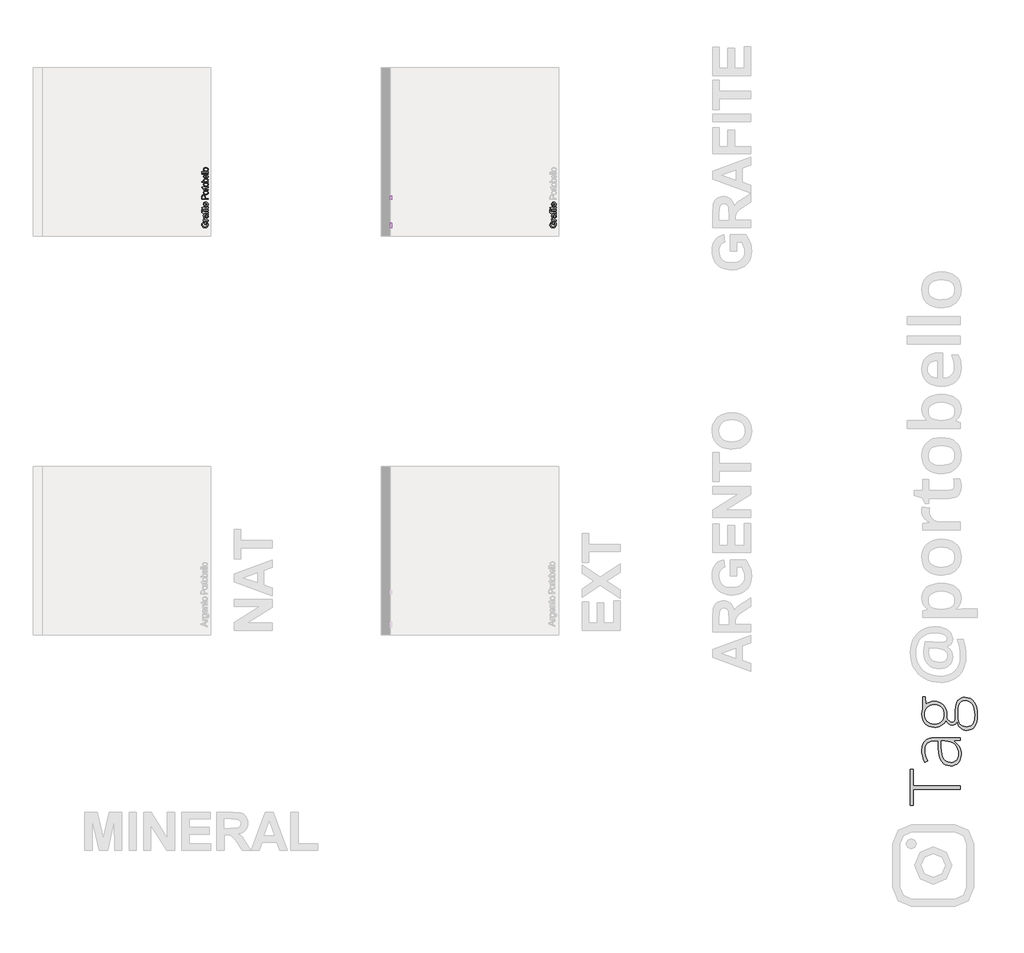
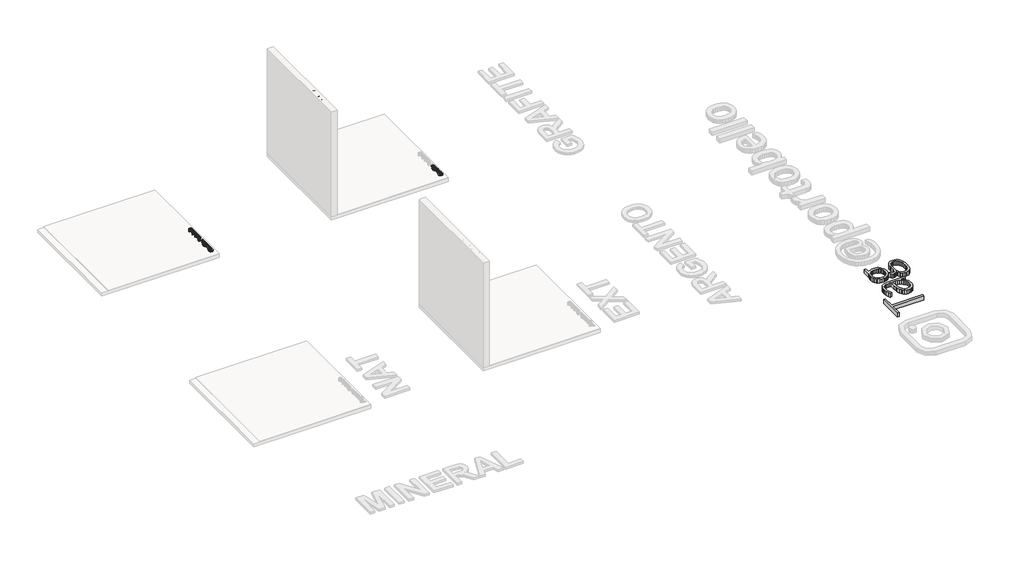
# One storey, part 5 of 14: 6 proxies.
"""IFC4 building model written with IfcOpenShell, lengths in millimetres."""

from ifc_helpers import new_model, si_unit, frame, origin, origin_with_axes, place, context, project, spatial, polyline, outline, extrude, element, save

model = new_model("IFC4")

# Units and contexts
model_context = context("Model", 3, world=origin())
ifc_project = project(units=[si_unit("LENGTHUNIT", "METRE", prefix="MILLI")], contexts=[model_context])

# Site, building, storey
site = spatial("IfcSite", under=ifc_project)
building = spatial("IfcBuilding", under=site)
storey = spatial("IfcBuildingStorey", under=building, Name="PORTOBELLO - SHOWROOM", Elevation=0.0)

# Proxies
placement = place(None, origin())
element("IfcBuildingElementProxy", 1, Name="10mm Arial", ObjectType="10mm Arial", at=placement, inside=storey, context=model_context, shape_type="SweptSolid", body=[
    extrude(outline(polyline([(197890.4860744, -2645.1463233), (197877.9290356, -2645.1463233), (197877.9290356, -2604.3359473), (197915.4775246, -2604.3359473), (197927.3233248, -2624.4836179), (197931.2964504, -2645.7839854), (197929.7176235, -2659.8708002), (197924.9811428, -2672.6025829), (197917.2525552, -2683.1791902), (197906.6974076, -2690.8004789), (197894.0361356, -2695.4082009), (197879.9891748, -2696.9441082), (197865.8410464, -2695.4143323), (197852.680068, -2690.8250044), (197841.6405425, -2683.3661969), (197833.8567726, -2673.2279823), (197829.2398536, -2660.87941), (197827.7008805, -2646.7895296), (197831.2693359, -2627.144631), (197841.2021498, -2613.3735817), (197857.8181532, -2605.7829498), (197861.0800402, -2617.3589699), (197849.4672319, -2623.0856663), (197842.7717796, -2632.8713274), (197840.2579193, -2646.9857333), (197842.9679833, -2663.0621765), (197850.0803686, -2674.0005345), (197859.7556651, -2680.4629948), (197879.47414, -2684.3870695), (197901.3631187, -2679.6659172), (197914.4597177, -2665.931656), (197918.7394116, -2646.7895296), (197915.5143128, -2629.6094404), (197908.6349195, -2616.8929861), (197890.4860744, -2616.8929861), (197890.4860744, -2645.1463233)])), frame((0.0, 0.0, 17.0), z_axis=(0.0, 0.0, 1.0), x_axis=(1.0, 0.0, 0.0)), (0.0, 0.0, 1.0), 20.0),
    extrude(outline(polyline([(197929.7268205, -2585.5003892), (197855.9542178, -2585.5003892), (197855.9542178, -2574.5129802), (197866.8680503, -2574.5129802), (197856.8126091, -2566.7138819), (197854.3845879, -2558.8657327), (197858.2596116, -2546.259643), (197869.5168007, -2550.4534978), (197866.9416267, -2559.2826656), (197869.4186988, -2566.3827881), (197876.2858294, -2570.9077367), (197890.9520582, -2572.9433504), (197929.7268205, -2572.9433504), (197929.7268205, -2585.5003892)])), frame((0.0, 0.0, 17.0), z_axis=(0.0, 0.0, 1.0), x_axis=(1.0, 0.0, 0.0)), (0.0, 0.0, 1.0), 20.0),
    extrude(outline(polyline([(197920.3090415, -2491.3225984), (197928.8193783, -2503.4994924), (197931.2964504, -2516.9517107), (197929.8065283, -2527.4455446), (197925.3367621, -2535.186395), (197918.5493392, -2539.9596638), (197910.1064475, -2541.5507535), (197900.1736336, -2539.1472578), (197892.9631465, -2532.8319502), (197888.8428681, -2524.0395705), (197886.9544072, -2513.1747889), (197882.6379252, -2491.3961748), (197879.842022, -2491.3225984), (197870.5713957, -2494.7806892), (197866.9416267, -2508.6621031), (197869.3573851, -2521.3662947), (197877.9290356, -2527.4240849), (197876.3594058, -2539.9811236), (197864.0966726, -2534.5487328), (197856.910711, -2523.6103748), (197854.3845879, -2507.0434223), (197856.6164054, -2491.8253705), (197862.2204744, -2483.2291945), (197870.743074, -2479.3786963), (197881.7304829, -2478.7655596), (197897.353205, -2478.7655596), (197919.1686073, -2478.1278975), (197929.7268205, -2475.6262999), (197929.7268205, -2488.1833387), (197920.3090415, -2491.3225984)]), holes=[polyline([(197895.1949639, -2491.3225984), (197899.0454621, -2511.5806336), (197901.0810758, -2522.3841015), (197904.3920138, -2527.2769321), (197909.2235307, -2528.9937147), (197916.0170848, -2525.2535811), (197918.7394116, -2514.2784349), (197915.735042, -2501.5742433), (197908.4632412, -2493.3827376), (197898.7511565, -2491.3961748), (197895.1949639, -2491.3225984)])]), frame((0.0, 0.0, 17.0), z_axis=(0.0, 0.0, 1.0), x_axis=(1.0, 0.0, 0.0)), (0.0, 0.0, 1.0), 20.0),
    extrude(outline(polyline([(197929.7268205, -2458.3603716), (197868.5112565, -2458.3603716), (197868.5112565, -2469.3477806), (197855.9542178, -2469.3477806), (197855.9542178, -2458.3603716), (197848.5230015, -2458.3603716), (197838.0506273, -2457.0359964), (197830.5703601, -2450.6103243), (197827.7008805, -2437.9551836), (197829.0743067, -2426.5017908), (197840.8465305, -2428.3412008), (197840.2579193, -2435.5762134), (197842.3425839, -2443.4856763), (197850.1171568, -2445.8033329), (197855.9542178, -2445.8033329), (197855.9542178, -2431.6766642), (197868.5112565, -2431.6766642), (197868.5112565, -2445.8033329), (197929.7268205, -2445.8033329), (197929.7268205, -2458.3603716)])), frame((0.0, 0.0, 17.0), z_axis=(0.0, 0.0, 1.0), x_axis=(1.0, 0.0, 0.0)), (0.0, 0.0, 1.0), 20.0),
    extrude(outline(polyline([(197841.8275492, -2420.6892553), (197829.2705104, -2420.6892553), (197829.2705104, -2408.1322166), (197841.8275492, -2408.1322166), (197841.8275492, -2420.6892553)])), frame((0.0, 0.0, 17.0), z_axis=(0.0, 0.0, 1.0), x_axis=(1.0, 0.0, 0.0)), (0.0, 0.0, 1.0), 20.0),
    extrude(outline(polyline([(197929.7268205, -2420.6892553), (197855.9542178, -2420.6892553), (197855.9542178, -2408.1322166), (197929.7268205, -2408.1322166), (197929.7268205, -2420.6892553)])), frame((0.0, 0.0, 17.0), z_axis=(0.0, 0.0, 1.0), x_axis=(1.0, 0.0, 0.0)), (0.0, 0.0, 1.0), 20.0),
    extrude(outline(polyline([(197919.2544464, -2362.612951), (197930.0947025, -2361.0433212), (197931.2964504, -2370.4365748), (197929.2117857, -2380.9579998), (197923.7426067, -2386.2064496), (197909.4933108, -2387.7270286), (197868.5112565, -2387.7270286), (197868.5112565, -2397.1448076), (197855.9542178, -2397.1448076), (197855.9542178, -2387.7270286), (197838.0261019, -2387.7270286), (197830.6439365, -2375.1699898), (197855.9542178, -2375.1699898), (197855.9542178, -2362.612951), (197868.5112565, -2362.612951), (197868.5112565, -2375.1699898), (197909.1254288, -2375.1699898), (197915.6001519, -2374.5078022), (197917.893283, -2372.3618239), (197918.7394116, -2368.08213), (197919.2544464, -2362.612951)])), frame((0.0, 0.0, 17.0), z_axis=(0.0, 0.0, 1.0), x_axis=(1.0, 0.0, 0.0)), (0.0, 0.0, 1.0), 20.0),
    extrude(outline(polyline([(197907.7520027, -2298.4052801), (197909.3216325, -2286.093496), (197918.5983902, -2290.5295397), (197925.5329658, -2297.6082025), (197929.8555792, -2307.1700687), (197931.2964504, -2319.0557228), (197928.8101812, -2333.7893967), (197921.3513738, -2345.1262935), (197909.404406, -2352.3551747), (197893.4536558, -2354.7648018), (197876.9664111, -2352.3306493), (197864.6362329, -2345.0281916), (197856.9474992, -2333.844579), (197854.3845879, -2319.7669613), (197856.9413678, -2306.1277363), (197864.6117074, -2295.2292322), (197876.9173601, -2288.0831245), (197893.3800794, -2285.7010886), (197896.7645938, -2285.774665), (197896.7645938, -2342.207763), (197906.1639787, -2340.0341936), (197913.0740289, -2334.9850132), (197917.3230659, -2327.697884), (197918.7394116, -2318.8104681), (197916.1151867, -2306.498684), (197907.7520027, -2298.4052801)]), holes=[polyline([(197884.207555, -2342.207763), (197884.207555, -2298.2581273), (197872.8277386, -2303.2858479), (197868.4131547, -2310.6066996), (197866.9416267, -2319.8160122), (197871.6382535, -2335.2793188), (197877.1288923, -2340.1445582), (197884.207555, -2342.207763)])]), frame((0.0, 0.0, 17.0), z_axis=(0.0, 0.0, 1.0), x_axis=(1.0, 0.0, 0.0)), (0.0, 0.0, 1.0), 20.0),
])
element("IfcBuildingElementProxy", 2, Name="10mm Arial", ObjectType="10mm Arial", at=placement, inside=storey, context=model_context, shape_type="SweptSolid", body=[
    extrude(outline(polyline([(192307.6502351, -2644.7991621), (192295.0931964, -2644.7991621), (192295.0931964, -2603.9887861), (192332.6416853, -2603.9887861), (192344.4874856, -2624.1364567), (192348.4606111, -2645.4368242), (192346.8817842, -2659.5236389), (192342.1453035, -2672.2554217), (192334.416716, -2682.832029), (192323.8615684, -2690.4533177), (192311.2002964, -2695.0610397), (192297.1533355, -2696.596947), (192283.0052071, -2695.067171), (192269.8442288, -2690.4778431), (192258.8047032, -2683.0190357), (192251.0209333, -2672.880821), (192246.4040143, -2660.5322487), (192244.8650413, -2646.4423683), (192248.4334966, -2626.7974698), (192258.3663105, -2613.0264204), (192274.982314, -2605.4357886), (192278.244201, -2617.0118087), (192266.6313927, -2622.7385051), (192259.9359404, -2632.5241662), (192257.4220801, -2646.6385721), (192260.1321441, -2662.7150152), (192267.2445293, -2673.6533732), (192276.9198258, -2680.1158336), (192296.6383007, -2684.0399082), (192318.5272795, -2679.318756), (192331.6238785, -2665.5844948), (192335.9035724, -2646.4423683), (192332.6784735, -2629.2622792), (192325.7990802, -2616.5458249), (192307.6502351, -2616.5458249), (192307.6502351, -2644.7991621)])), frame((0.0, 0.0, 17.0), z_axis=(0.0, 0.0, 1.0), x_axis=(1.0, 0.0, 0.0)), (0.0, 0.0, 1.0), 20.0),
    extrude(outline(polyline([(192346.8909813, -2585.1532279), (192273.1183785, -2585.1532279), (192273.1183785, -2574.165819), (192284.032211, -2574.165819), (192273.9767698, -2566.3667207), (192271.5487487, -2558.5185715), (192275.4237724, -2545.9124818), (192286.6809614, -2550.1063365), (192284.1057874, -2558.9355044), (192286.5828595, -2566.0356269), (192293.4499901, -2570.5605755), (192308.116219, -2572.5961892), (192346.8909813, -2572.5961892), (192346.8909813, -2585.1532279)])), frame((0.0, 0.0, 17.0), z_axis=(0.0, 0.0, 1.0), x_axis=(1.0, 0.0, 0.0)), (0.0, 0.0, 1.0), 20.0),
    extrude(outline(polyline([(192337.4732022, -2490.9754372), (192345.983539, -2503.1523312), (192348.4606111, -2516.6045495), (192346.9706891, -2527.0983834), (192342.5009228, -2534.8392337), (192335.7135, -2539.6125026), (192327.2706082, -2541.2035922), (192317.3377943, -2538.8000965), (192310.1273072, -2532.484789), (192306.0070289, -2523.6924093), (192304.118568, -2512.8276277), (192299.8020859, -2491.0490136), (192297.0061827, -2490.9754372), (192287.7355565, -2494.4335279), (192284.1057874, -2508.3149419), (192286.5215459, -2521.0191334), (192295.0931964, -2527.0769236), (192293.5235665, -2539.6339624), (192281.2608333, -2534.2015716), (192274.0748717, -2523.2632136), (192271.5487487, -2506.6962611), (192273.7805661, -2491.4782092), (192279.3846352, -2482.8820333), (192287.9072347, -2479.0315351), (192298.8946436, -2478.4183984), (192314.5173657, -2478.4183984), (192336.332768, -2477.7807363), (192346.8909813, -2475.2791387), (192346.8909813, -2487.8361775), (192337.4732022, -2490.9754372)]), holes=[polyline([(192312.3591247, -2490.9754372), (192316.2096229, -2511.2334724), (192318.2452366, -2522.0369403), (192321.5561746, -2526.9297708), (192326.3876914, -2528.6465535), (192333.1812456, -2524.9064199), (192335.9035724, -2513.9312737), (192332.8992027, -2501.2270821), (192325.627402, -2493.0355763), (192315.9153173, -2491.0490136), (192312.3591247, -2490.9754372)])]), frame((0.0, 0.0, 17.0), z_axis=(0.0, 0.0, 1.0), x_axis=(1.0, 0.0, 0.0)), (0.0, 0.0, 1.0), 20.0),
    extrude(outline(polyline([(192346.8909813, -2458.0132104), (192285.6754173, -2458.0132104), (192285.6754173, -2469.0006193), (192273.1183785, -2469.0006193), (192273.1183785, -2458.0132104), (192265.6871622, -2458.0132104), (192255.2147881, -2456.6888352), (192247.7345209, -2450.263163), (192244.8650413, -2437.6080224), (192246.2384674, -2426.1546296), (192258.0106912, -2427.9940396), (192257.4220801, -2435.2290522), (192259.5067447, -2443.1385151), (192267.2813175, -2445.4561716), (192273.1183785, -2445.4561716), (192273.1183785, -2431.329503), (192285.6754173, -2431.329503), (192285.6754173, -2445.4561716), (192346.8909813, -2445.4561716), (192346.8909813, -2458.0132104)])), frame((0.0, 0.0, 17.0), z_axis=(0.0, 0.0, 1.0), x_axis=(1.0, 0.0, 0.0)), (0.0, 0.0, 1.0), 20.0),
    extrude(outline(polyline([(192258.9917099, -2420.3420941), (192246.4346711, -2420.3420941), (192246.4346711, -2407.7850553), (192258.9917099, -2407.7850553), (192258.9917099, -2420.3420941)])), frame((0.0, 0.0, 17.0), z_axis=(0.0, 0.0, 1.0), x_axis=(1.0, 0.0, 0.0)), (0.0, 0.0, 1.0), 20.0),
    extrude(outline(polyline([(192346.8909813, -2420.3420941), (192273.1183785, -2420.3420941), (192273.1183785, -2407.7850553), (192346.8909813, -2407.7850553), (192346.8909813, -2420.3420941)])), frame((0.0, 0.0, 17.0), z_axis=(0.0, 0.0, 1.0), x_axis=(1.0, 0.0, 0.0)), (0.0, 0.0, 1.0), 20.0),
    extrude(outline(polyline([(192336.4186072, -2362.2657898), (192347.2588633, -2360.6961599), (192348.4606111, -2370.0894135), (192346.3759465, -2380.6108386), (192340.9067675, -2385.8592884), (192326.6574715, -2387.3798673), (192285.6754173, -2387.3798673), (192285.6754173, -2396.7976464), (192273.1183785, -2396.7976464), (192273.1183785, -2387.3798673), (192255.1902626, -2387.3798673), (192247.8080973, -2374.8228286), (192273.1183785, -2374.8228286), (192273.1183785, -2362.2657898), (192285.6754173, -2362.2657898), (192285.6754173, -2374.8228286), (192326.2895896, -2374.8228286), (192332.7643127, -2374.160641), (192335.0574438, -2372.0146627), (192335.9035724, -2367.7349688), (192336.4186072, -2362.2657898)])), frame((0.0, 0.0, 17.0), z_axis=(0.0, 0.0, 1.0), x_axis=(1.0, 0.0, 0.0)), (0.0, 0.0, 1.0), 20.0),
    extrude(outline(polyline([(192324.9161634, -2298.0581189), (192326.4857933, -2285.7463348), (192335.7625509, -2290.1823785), (192342.6971265, -2297.2610412), (192347.01974, -2306.8229074), (192348.4606111, -2318.7085616), (192345.974342, -2333.4422355), (192338.5155345, -2344.7791323), (192326.5685667, -2352.0080135), (192310.6178166, -2354.4176406), (192294.1305718, -2351.983488), (192281.8003936, -2344.6810304), (192274.1116599, -2333.4974178), (192271.5487487, -2319.4198001), (192274.1055285, -2305.7805751), (192281.7758681, -2294.882071), (192294.0815209, -2287.7359632), (192310.5442402, -2285.3539273), (192313.9287545, -2285.4275037), (192313.9287545, -2341.8606018), (192323.3281395, -2339.6870323), (192330.2381896, -2334.6378519), (192334.4872267, -2327.3507228), (192335.9035724, -2318.4633069), (192333.2793475, -2306.1515228), (192324.9161634, -2298.0581189)]), holes=[polyline([(192301.3717157, -2341.8606018), (192301.3717157, -2297.9109661), (192289.9918994, -2302.9386867), (192285.5773154, -2310.2595384), (192284.1057874, -2319.468851), (192288.8024142, -2334.9321575), (192294.293053, -2339.7973969), (192301.3717157, -2341.8606018)])]), frame((0.0, 0.0, 17.0), z_axis=(0.0, 0.0, 1.0), x_axis=(1.0, 0.0, 0.0)), (0.0, 0.0, 1.0), 20.0),
])
element("IfcBuildingElementProxy", 3, Name="10mm Arial", ObjectType="10mm Arial", at=placement, inside=storey, context=model_context, shape_type="SweptSolid", body=[
    extrude(outline(polyline([(-2650.8558235, 2597.4669111), (-2650.8558235, 2610.0239499), (-2610.0454475, 2610.0239499), (-2610.0454475, 2572.4754609), (-2630.1931181, 2560.6296606), (-2651.4934856, 2556.6565351), (-2665.5803003, 2558.235362), (-2678.312083, 2562.9718427), (-2688.8886904, 2570.7004303), (-2696.5099791, 2581.2555778), (-2701.1177011, 2593.9168498), (-2702.6536084, 2607.9638107), (-2701.1238324, 2622.1119391), (-2696.5345045, 2635.2729175), (-2689.0756971, 2646.312443), (-2678.9374824, 2654.0962129), (-2666.5889101, 2658.7131319), (-2652.4990297, 2660.2521049), (-2632.8541312, 2656.6836496), (-2619.0830818, 2646.7508357), (-2611.49245, 2630.1348323), (-2623.0684701, 2626.8729452), (-2628.7951665, 2638.4857536), (-2638.5808276, 2645.1812059), (-2652.6952335, 2647.6950662), (-2668.7716766, 2644.9850021), (-2679.7100346, 2637.8726169), (-2686.172495, 2628.1973204), (-2690.0965696, 2608.4788455), (-2685.3754174, 2586.5898668), (-2671.6411562, 2573.4932677), (-2652.4990297, 2569.2135739), (-2635.3189405, 2572.4386727), (-2622.6024862, 2579.318066), (-2622.6024862, 2597.4669111), (-2650.8558235, 2597.4669111)])), frame((195271.7113716, 0.0, 0.0), z_axis=(1.0, 0.0, 0.0), x_axis=(0.0, 1.0, 0.0)), (0.0, 0.0, 1.0), 20.0),
    extrude(outline(polyline([(-2591.2098893, 2558.2261649), (-2591.2098893, 2631.9987677), (-2580.2224804, 2631.9987677), (-2580.2224804, 2621.0849352), (-2572.4233821, 2631.1403764), (-2564.5752329, 2633.5683975), (-2551.9691432, 2629.6933739), (-2556.1629979, 2618.4361848), (-2564.9921658, 2621.0113588), (-2572.0922883, 2618.5342867), (-2576.6172368, 2611.6671561), (-2578.6528506, 2597.0009272), (-2578.6528506, 2558.2261649), (-2591.2098893, 2558.2261649)])), frame((195271.7113716, 0.0, 0.0), z_axis=(1.0, 0.0, 0.0), x_axis=(0.0, 1.0, 0.0)), (0.0, 0.0, 1.0), 20.0),
    extrude(outline(polyline([(-2497.0320986, 2567.643944), (-2509.2089926, 2559.1336072), (-2522.6612109, 2556.6565351), (-2533.1550448, 2558.1464572), (-2540.8958951, 2562.6162234), (-2545.669164, 2569.4036462), (-2547.2602536, 2577.846538), (-2544.8567579, 2587.7793519), (-2538.5414503, 2594.989839), (-2529.7490707, 2599.1101173), (-2518.8842891, 2600.9985782), (-2497.105675, 2605.3150603), (-2497.0320986, 2608.1109635), (-2500.4901893, 2617.3815898), (-2514.3716033, 2621.0113588), (-2527.0757948, 2618.5956003), (-2533.133585, 2610.0239499), (-2545.6906238, 2611.5935797), (-2540.258233, 2623.8563129), (-2529.319875, 2631.0422745), (-2512.7529225, 2633.5683975), (-2497.5348706, 2631.3365801), (-2488.9386947, 2625.7325111), (-2485.0881964, 2617.2099115), (-2484.4750598, 2606.2225026), (-2484.4750598, 2590.5997805), (-2483.8373977, 2568.7843782), (-2481.3358001, 2558.2261649), (-2493.8928389, 2558.2261649), (-2497.0320986, 2567.643944)]), holes=[polyline([(-2497.0320986, 2592.7580215), (-2517.2901338, 2588.9075233), (-2528.0936017, 2586.8719096), (-2532.9864322, 2583.5609717), (-2534.7032149, 2578.7294548), (-2530.9630812, 2571.9359006), (-2519.9879351, 2569.2135739), (-2507.2837435, 2572.2179435), (-2499.0922377, 2579.4897443), (-2497.105675, 2589.2018289), (-2497.0320986, 2592.7580215)])]), frame((195271.7113716, 0.0, 0.0), z_axis=(1.0, 0.0, 0.0), x_axis=(0.0, 1.0, 0.0)), (0.0, 0.0, 1.0), 20.0),
    extrude(outline(polyline([(-2464.0698718, 2558.2261649), (-2464.0698718, 2619.4417289), (-2475.0572807, 2619.4417289), (-2475.0572807, 2631.9987677), (-2464.0698718, 2631.9987677), (-2464.0698718, 2639.429984), (-2462.7454966, 2649.9023581), (-2456.3198244, 2657.3826254), (-2443.6646838, 2660.2521049), (-2432.211291, 2658.8786788), (-2434.050701, 2647.106455), (-2441.2857136, 2647.6950662), (-2449.1951765, 2645.6104015), (-2451.512833, 2637.8358287), (-2451.512833, 2631.9987677), (-2437.3861644, 2631.9987677), (-2437.3861644, 2619.4417289), (-2451.512833, 2619.4417289), (-2451.512833, 2558.2261649), (-2464.0698718, 2558.2261649)])), frame((195271.7113716, 0.0, 0.0), z_axis=(1.0, 0.0, 0.0), x_axis=(0.0, 1.0, 0.0)), (0.0, 0.0, 1.0), 20.0),
    extrude(outline(polyline([(195291.7113716, -2413.8417167), (195291.7113716, -2426.3987555), (195271.7113716, -2426.3987555), (195271.7113716, -2413.8417167), (195291.7113716, -2413.8417167)])), frame((0.0, 0.0, 2646.1254363), z_axis=(0.0, 0.0, 1.0), x_axis=(1.0, 0.0, 0.0)), (0.0, 0.0, 1.0), 12.5570388),
    extrude(outline(polyline([(195291.7113716, -2413.8417167), (195291.7113716, -2426.3987555), (195271.7113716, -2426.3987555), (195271.7113716, -2413.8417167), (195291.7113716, -2413.8417167)])), frame((0.0, 0.0, 2558.2261649), z_axis=(0.0, 0.0, 1.0), x_axis=(1.0, 0.0, 0.0)), (0.0, 0.0, 1.0), 73.7726028),
    extrude(outline(polyline([(-2368.3224512, 2568.6985391), (-2366.7528213, 2557.8582829), (-2376.1460749, 2556.6565351), (-2386.6675, 2558.7411997), (-2391.9159498, 2564.2103787), (-2393.4365287, 2578.4596747), (-2393.4365287, 2619.4417289), (-2402.8543078, 2619.4417289), (-2402.8543078, 2631.9987677), (-2393.4365287, 2631.9987677), (-2393.4365287, 2649.9268836), (-2380.8794899, 2657.309049), (-2380.8794899, 2631.9987677), (-2368.3224512, 2631.9987677), (-2368.3224512, 2619.4417289), (-2380.8794899, 2619.4417289), (-2380.8794899, 2578.8275567), (-2380.2173024, 2572.3528336), (-2378.0713241, 2570.0597024), (-2373.7916302, 2569.2135739), (-2368.3224512, 2568.6985391)])), frame((195271.7113716, 0.0, 0.0), z_axis=(1.0, 0.0, 0.0), x_axis=(0.0, 1.0, 0.0)), (0.0, 0.0, 1.0), 20.0),
    extrude(outline(polyline([(-2304.1147803, 2580.2009828), (-2291.8029962, 2578.6313529), (-2296.2390399, 2569.3545953), (-2303.3177026, 2562.4200197), (-2312.8795688, 2558.0974062), (-2324.765223, 2556.6565351), (-2339.4988969, 2559.1428042), (-2350.8357937, 2566.6016117), (-2358.0646749, 2578.5485795), (-2360.4743019, 2594.4993297), (-2358.0401494, 2610.9865744), (-2350.7376918, 2623.3167526), (-2339.5540792, 2631.0054863), (-2325.4764615, 2633.5683975), (-2311.8372365, 2631.0116177), (-2300.9387324, 2623.3412781), (-2293.7926246, 2611.0356253), (-2291.4105887, 2594.5729061), (-2291.4841651, 2591.1883917), (-2347.9172632, 2591.1883917), (-2345.7436937, 2581.7890067), (-2340.6945133, 2574.8789566), (-2333.4073842, 2570.6299195), (-2324.5199683, 2569.2135739), (-2312.2081842, 2571.8377988), (-2304.1147803, 2580.2009828)]), holes=[polyline([(-2347.9172632, 2603.7454305), (-2303.9676275, 2603.7454305), (-2308.9953481, 2615.1252469), (-2316.3161998, 2619.5398308), (-2325.5255124, 2621.0113588), (-2340.9888189, 2616.314732), (-2345.8540583, 2610.8240932), (-2347.9172632, 2603.7454305)])]), frame((195271.7113716, 0.0, 0.0), z_axis=(1.0, 0.0, 0.0), x_axis=(0.0, 1.0, 0.0)), (0.0, 0.0, 1.0), 20.0),
])
element("IfcBuildingElementProxy", 4, Name="10mm Arial Narrow", ObjectType="10mm Arial Narrow", at=placement, inside=storey, context=model_context, shape_type="SweptSolid", body=[
    extrude(outline(polyline([(192346.8909813, -2234.5741578), (192246.1723775, -2234.5741578), (192246.1723775, -2203.2772732), (192248.0506983, -2186.9815716), (192257.5311414, -2175.5085855), (192274.5502503, -2171.2189071), (192286.6260758, -2173.0052155), (192296.2524696, -2178.3641407), (192302.553728, -2188.1079295), (192304.6541475, -2203.0488287), (192304.6541475, -2224.8271962), (192346.8909813, -2224.8271962), (192346.8909813, -2234.5741578)]), holes=[polyline([(192293.2826922, -2224.8271962), (192293.2826922, -2201.8558412), (192288.751878, -2185.9916458), (192275.0832872, -2180.9658687), (192264.9175108, -2183.4406832), (192259.117561, -2189.4183121), (192257.5438328, -2202.0842857), (192257.5438328, -2224.8271962), (192293.2826922, -2224.8271962)])]), frame((0.0, 0.0, 17.0), z_axis=(0.0, 0.0, 1.0), x_axis=(1.0, 0.0, 0.0)), (0.0, 0.0, 1.0), 20.0),
    extrude(outline(polyline([(192310.3398751, -2163.096439), (192293.7490995, -2161.1419702), (192281.7970147, -2155.2785636), (192274.5724601, -2146.4199968), (192272.1642753, -2135.4800477), (192274.5724601, -2124.6670121), (192281.7970147, -2115.7830627), (192293.5587292, -2109.8435079), (192309.5783937, -2107.8636563), (192326.7402803, -2109.8086067), (192338.8827354, -2115.6434578), (192346.10729, -2124.492506), (192348.5154749, -2135.4800477), (192346.1009444, -2146.3406759), (192338.8573527, -2155.2151068), (192326.8989222, -2161.126106), (192310.3398751, -2163.096439)]), holes=[polyline([(192310.3144924, -2153.3494774), (192322.8662438, -2152.0454405), (192331.7375018, -2148.1333299), (192337.0107604, -2142.2921332), (192338.7685132, -2135.2008379), (192336.9948962, -2128.4807647), (192331.6740451, -2122.7886914), (192322.7869228, -2118.9051363), (192310.3144924, -2117.610618), (192297.800815, -2118.9146549), (192288.9422483, -2122.8267654), (192283.6689898, -2128.6679622), (192281.9112369, -2135.7592575), (192283.6785083, -2142.5269233), (192288.9803224, -2148.2094781), (192297.8484076, -2152.0644776), (192310.3144924, -2153.3494774)])]), frame((0.0, 0.0, 17.0), z_axis=(0.0, 0.0, 1.0), x_axis=(1.0, 0.0, 0.0)), (0.0, 0.0, 1.0), 20.0),
    extrude(outline(polyline([(192338.7685132, -2036.3859375), (192348.5154749, -2034.7614439), (192348.5154749, -2042.1224306), (192346.3960184, -2050.3971949), (192340.5960686, -2054.7122561), (192325.9502434, -2055.8798609), (192283.5357305, -2055.8798609), (192283.5357305, -2064.0023289), (192280.2867433, -2064.0023289), (192285.1602241, -2065.6268225), (192283.5357305, -2073.1908709), (192285.8582487, -2079.2700306), (192292.3435318, -2083.1408942), (192307.7508384, -2085.1207458), (192346.8909813, -2085.1207458), (192346.8909813, -2094.8677075), (192273.7887689, -2094.8677075), (192273.7887689, -2085.1207458), (192283.4849651, -2085.1207458), (192274.397954, -2078.8765985), (192272.1642753, -2072.4801549), (192273.7887689, -2064.0023289), (192273.7887689, -2055.8798609), (192257.5438328, -2055.8798609), (192249.4213647, -2046.1328992), (192273.7887689, -2046.1328992), (192273.7887689, -2036.3859375), (192283.5357305, -2036.3859375), (192283.5357305, -2046.1328992), (192328.1839221, -2046.1328992), (192336.1794766, -2045.269887), (192338.7685132, -2040.6502333), (192338.7685132, -2036.3859375)])), frame((0.0, 0.0, 17.0), z_axis=(0.0, 0.0, 1.0), x_axis=(1.0, 0.0, 0.0)), (0.0, 0.0, 1.0), 20.0),
    extrude(outline(polyline([(192310.3398751, -2029.8879631), (192293.7490995, -2027.9334942), (192281.7970147, -2022.0700876), (192274.5724601, -2013.2115209), (192272.1642753, -2002.2715718), (192274.5724601, -1991.4585362), (192281.7970147, -1982.5745868), (192293.5587292, -1976.635032), (192309.5783937, -1974.6551804), (192326.7402803, -1976.6001308), (192338.8827354, -1982.4349818), (192346.10729, -1991.28403), (192348.5154749, -2002.2715718), (192346.1009444, -2013.1321999), (192338.8573527, -2022.0066308), (192326.8989222, -2027.91763), (192310.3398751, -2029.8879631)]), holes=[polyline([(192310.3144924, -2020.1410015), (192322.8662438, -2018.8369646), (192331.7375018, -2014.924854), (192337.0107604, -2009.0836573), (192338.7685132, -2001.9923619), (192336.9948962, -1995.2722888), (192331.6740451, -1989.5802154), (192322.7869228, -1985.6966604), (192310.3144924, -1984.4021421), (192297.800815, -1985.7061789), (192288.9422483, -1989.6182895), (192283.6689898, -1995.4594863), (192281.9112369, -2002.5507816), (192283.6785083, -2009.3184474), (192288.9803224, -2015.0010022), (192297.8484076, -2018.8560016), (192310.3144924, -2020.1410015)])]), frame((0.0, 0.0, 17.0), z_axis=(0.0, 0.0, 1.0), x_axis=(1.0, 0.0, 0.0)), (0.0, 0.0, 1.0), 20.0),
    extrude(outline(polyline([(192346.8909813, -1951.9122699), (192346.8909813, -1961.6592315), (192246.1723775, -1961.6592315), (192246.1723775, -1951.9122699), (192281.5812617, -1951.9122699), (192274.4994848, -1944.5132092), (192272.1642753, -1935.3119758), (192276.3651142, -1922.4302492), (192289.0945446, -1913.1528677), (192309.7814554, -1909.6754361), (192326.2357989, -1911.6076951), (192338.438538, -1917.4044721), (192345.9962407, -1925.7775944), (192348.5154749, -1935.4388894), (192345.9010555, -1944.7797276), (192338.1339454, -1951.9122699), (192346.8909813, -1951.9122699)]), holes=[polyline([(192309.7814554, -1951.9122699), (192327.0290086, -1949.8308874), (192335.7606618, -1943.9420981), (192338.7685132, -1935.4896548), (192336.979032, -1929.5469272), (192331.6105883, -1924.3085699), (192310.1875788, -1919.4223977), (192288.751878, -1924.1308909), (192283.6213972, -1929.3755939), (192281.9112369, -1935.6927165), (192283.7007182, -1941.6703453), (192289.0691619, -1946.9626409), (192309.7814554, -1951.9122699)])]), frame((0.0, 0.0, 17.0), z_axis=(0.0, 0.0, 1.0), x_axis=(1.0, 0.0, 0.0)), (0.0, 0.0, 1.0), 20.0),
    extrude(outline(polyline([(192324.1480708, -1857.6916406), (192325.7725644, -1847.9446789), (192335.6591309, -1851.6442093), (192342.7789818, -1857.4631962), (192347.0813516, -1865.1668494), (192348.5154749, -1874.520379), (192346.1009444, -1886.113933), (192338.8573527, -1895.2580553), (192327.0512185, -1901.19761), (192310.9490602, -1903.1774616), (192294.2821365, -1901.1880915), (192282.1016073, -1895.2199812), (192274.6486083, -1886.2059454), (192272.1642753, -1875.0787987), (192274.5629416, -1864.3958495), (192281.7589407, -1855.6483322), (192293.4984452, -1849.8134811), (192309.5276283, -1847.8685308), (192312.7766155, -1847.9446789), (192312.7766155, -1893.4305), (192332.2197734, -1887.4274884), (192337.1313283, -1881.4974522), (192338.7685132, -1874.3934655), (192335.1134026, -1864.2149977), (192324.1480708, -1857.6916406)]), holes=[polyline([(192303.0296538, -1892.7705494), (192303.0296538, -1857.6916406), (192288.7645693, -1861.9559363), (192283.62457, -1867.7812688), (192281.9112369, -1875.0026506), (192287.6223473, -1887.2117354), (192303.0296538, -1892.7705494)])]), frame((0.0, 0.0, 17.0), z_axis=(0.0, 0.0, 1.0), x_axis=(1.0, 0.0, 0.0)), (0.0, 0.0, 1.0), 20.0),
    extrude(outline(polyline([(192346.8909813, -1834.94873), (192246.1723775, -1834.94873), (192246.1723775, -1825.2017684), (192346.8909813, -1825.2017684), (192346.8909813, -1834.94873)])), frame((0.0, 0.0, 17.0), z_axis=(0.0, 0.0, 1.0), x_axis=(1.0, 0.0, 0.0)), (0.0, 0.0, 1.0), 20.0),
    extrude(outline(polyline([(192346.8909813, -1808.9568323), (192246.1723775, -1808.9568323), (192246.1723775, -1799.2098706), (192346.8909813, -1799.2098706), (192346.8909813, -1808.9568323)])), frame((0.0, 0.0, 17.0), z_axis=(0.0, 0.0, 1.0), x_axis=(1.0, 0.0, 0.0)), (0.0, 0.0, 1.0), 20.0),
    extrude(outline(polyline([(192310.3398751, -1787.8384154), (192293.7490995, -1785.8839465), (192281.7970147, -1780.0205399), (192274.5724601, -1771.1619732), (192272.1642753, -1760.222024), (192274.5724601, -1749.4089884), (192281.7970147, -1740.525039), (192293.5587292, -1734.5854843), (192309.5783937, -1732.6056327), (192326.7402803, -1734.550583), (192338.8827354, -1740.3854341), (192346.10729, -1749.2344823), (192348.5154749, -1760.222024), (192346.1009444, -1771.0826522), (192338.8573527, -1779.9570831), (192326.8989222, -1785.8680823), (192310.3398751, -1787.8384154)]), holes=[polyline([(192310.3144924, -1778.0914537), (192322.8662438, -1776.7874169), (192331.7375018, -1772.8753063), (192337.0107604, -1767.0341095), (192338.7685132, -1759.9428142), (192336.9948962, -1753.222741), (192331.6740451, -1747.5306677), (192322.7869228, -1743.6471127), (192310.3144924, -1742.3525943), (192297.800815, -1743.6566312), (192288.9422483, -1747.5687418), (192283.6689898, -1753.4099385), (192281.9112369, -1760.5012339), (192283.6785083, -1767.2688996), (192288.9803224, -1772.9514544), (192297.8484076, -1776.8064539), (192310.3144924, -1778.0914537)])]), frame((0.0, 0.0, 17.0), z_axis=(0.0, 0.0, 1.0), x_axis=(1.0, 0.0, 0.0)), (0.0, 0.0, 1.0), 20.0),
])
element("IfcBuildingElementProxy", 5, Name="10mm Arial Narrow", ObjectType="10mm Arial Narrow", at=placement, inside=storey, context=model_context, shape_type="SweptSolid", body=[
    extrude(outline(polyline([(-2245.8096597, 2558.2261649), (-2245.8096597, 2658.9447687), (-2214.5127751, 2658.9447687), (-2198.2170735, 2657.066448), (-2186.7440874, 2647.5860048), (-2182.454409, 2630.566896), (-2184.2407174, 2618.4910704), (-2189.5996426, 2608.8646767), (-2199.3434314, 2602.5634182), (-2214.2843306, 2600.4629988), (-2236.0626981, 2600.4629988), (-2236.0626981, 2558.2261649), (-2245.8096597, 2558.2261649)]), holes=[polyline([(-2236.0626981, 2611.834454), (-2213.0913431, 2611.834454), (-2197.2271477, 2616.3652682), (-2192.2013706, 2630.033859), (-2194.6761851, 2640.1996354), (-2200.653814, 2645.9995852), (-2213.3197876, 2647.5733134), (-2236.0626981, 2647.5733134), (-2236.0626981, 2611.834454)])]), frame((195271.7113716, 0.0, 0.0), z_axis=(1.0, 0.0, 0.0), x_axis=(0.0, 1.0, 0.0)), (0.0, 0.0, 1.0), 20.0),
    extrude(outline(polyline([(-2174.3319409, 2594.7772711), (-2172.3774721, 2611.3680467), (-2166.5140655, 2623.3201315), (-2157.6554987, 2630.5446861), (-2146.7155496, 2632.9528709), (-2135.902514, 2630.5446861), (-2127.0185646, 2623.3201315), (-2121.0790098, 2611.558417), (-2119.0991582, 2595.5387525), (-2121.0441086, 2578.3768659), (-2126.8789597, 2566.2344108), (-2135.7280079, 2559.0098562), (-2146.7155496, 2556.6016713), (-2157.5761778, 2559.0162019), (-2166.4506087, 2566.2597935), (-2172.3616079, 2578.218224), (-2174.3319409, 2594.7772711)]), holes=[polyline([(-2164.5849793, 2594.8026538), (-2163.2809424, 2582.2509024), (-2159.3688318, 2573.3796444), (-2153.5276351, 2568.1063858), (-2146.4363398, 2566.348633), (-2139.7162666, 2568.12225), (-2134.0241933, 2573.4431012), (-2130.1406382, 2582.3302234), (-2128.8461199, 2594.8026538), (-2130.1501568, 2607.3163312), (-2134.0622673, 2616.1748979), (-2139.9034641, 2621.4481564), (-2146.9947594, 2623.2059093), (-2153.7624252, 2621.4386379), (-2159.44498, 2616.1368238), (-2163.2999795, 2607.2687386), (-2164.5849793, 2594.8026538)])]), frame((195271.7113716, 0.0, 0.0), z_axis=(1.0, 0.0, 0.0), x_axis=(0.0, 1.0, 0.0)), (0.0, 0.0, 1.0), 20.0),
    extrude(outline(polyline([(-2047.6214394, 2566.348633), (-2045.9969458, 2556.6016713), (-2053.3579325, 2556.6016713), (-2061.6326968, 2558.7211278), (-2065.947758, 2564.5210777), (-2067.1153628, 2579.1669029), (-2067.1153628, 2621.5814157), (-2075.2378308, 2621.5814157), (-2075.2378308, 2624.8304029), (-2076.8623244, 2619.9569221), (-2084.4263728, 2621.5814157), (-2090.5055325, 2619.2588975), (-2094.3763961, 2612.7736144), (-2096.3562477, 2597.3663078), (-2096.3562477, 2558.2261649), (-2106.1032094, 2558.2261649), (-2106.1032094, 2631.3283773), (-2096.3562477, 2631.3283773), (-2096.3562477, 2621.6321811), (-2090.1121004, 2630.7191922), (-2083.7156568, 2632.9528709), (-2075.2378308, 2631.3283773), (-2067.1153628, 2631.3283773), (-2067.1153628, 2647.5733134), (-2057.3684011, 2655.6957815), (-2057.3684011, 2631.3283773), (-2047.6214394, 2631.3283773), (-2047.6214394, 2621.5814157), (-2057.3684011, 2621.5814157), (-2057.3684011, 2576.9332242), (-2056.5053889, 2568.9376697), (-2051.8857352, 2566.348633), (-2047.6214394, 2566.348633)])), frame((195271.7113716, 0.0, 0.0), z_axis=(1.0, 0.0, 0.0), x_axis=(0.0, 1.0, 0.0)), (0.0, 0.0, 1.0), 20.0),
    extrude(outline(polyline([(-2041.123465, 2594.7772711), (-2039.1689961, 2611.3680467), (-2033.3055895, 2623.3201315), (-2024.4470228, 2630.5446861), (-2013.5070737, 2632.9528709), (-2002.6940381, 2630.5446861), (-1993.8100887, 2623.3201315), (-1987.8705339, 2611.558417), (-1985.8906823, 2595.5387525), (-1987.8356327, 2578.3768659), (-1993.6704837, 2566.2344108), (-2002.5195319, 2559.0098562), (-2013.5070737, 2556.6016713), (-2024.3677018, 2559.0162019), (-2033.2421327, 2566.2597935), (-2039.1531319, 2578.218224), (-2041.123465, 2594.7772711)]), holes=[polyline([(-2031.3765034, 2594.8026538), (-2030.0724665, 2582.2509024), (-2026.1603559, 2573.3796444), (-2020.3191592, 2568.1063858), (-2013.2278638, 2566.348633), (-2006.5077907, 2568.12225), (-2000.8157173, 2573.4431012), (-1996.9321623, 2582.3302234), (-1995.637644, 2594.8026538), (-1996.9416808, 2607.3163312), (-2000.8537914, 2616.1748979), (-2006.6949882, 2621.4481564), (-2013.7862835, 2623.2059093), (-2020.5539493, 2621.4386379), (-2026.2365041, 2616.1368238), (-2030.0915035, 2607.2687386), (-2031.3765034, 2594.8026538)])]), frame((195271.7113716, 0.0, 0.0), z_axis=(1.0, 0.0, 0.0), x_axis=(0.0, 1.0, 0.0)), (0.0, 0.0, 1.0), 20.0),
    extrude(outline(polyline([(-1963.1477718, 2558.2261649), (-1972.8947334, 2558.2261649), (-1972.8947334, 2658.9447687), (-1963.1477718, 2658.9447687), (-1963.1477718, 2623.5358846), (-1955.7487111, 2630.6176614), (-1946.5474777, 2632.9528709), (-1933.6657511, 2628.752032), (-1924.3883696, 2616.0226016), (-1920.910938, 2595.3356908), (-1922.843197, 2578.8813473), (-1928.639974, 2566.6786082), (-1937.0130963, 2559.1209056), (-1946.6743913, 2556.6016713), (-1956.0152295, 2559.2160907), (-1963.1477718, 2566.9832008), (-1963.1477718, 2558.2261649)]), holes=[polyline([(-1963.1477718, 2595.3356908), (-1961.0663893, 2578.0881376), (-1955.1776, 2569.3564844), (-1946.7251567, 2566.348633), (-1940.7824291, 2568.1381142), (-1935.5440718, 2573.5065579), (-1930.6578996, 2594.9295674), (-1935.3663928, 2616.3652682), (-1940.6110958, 2621.495749), (-1946.9282184, 2623.2059093), (-1952.9058472, 2621.4164281), (-1958.1981428, 2616.0479843), (-1963.1477718, 2595.3356908)])]), frame((195271.7113716, 0.0, 0.0), z_axis=(1.0, 0.0, 0.0), x_axis=(0.0, 1.0, 0.0)), (0.0, 0.0, 1.0), 20.0),
    extrude(outline(polyline([(-1868.9271425, 2580.9690755), (-1859.1801808, 2579.3445819), (-1862.8797112, 2569.4580153), (-1868.6986981, 2562.3381644), (-1876.4023513, 2558.0357946), (-1885.7558809, 2556.6016713), (-1897.3494349, 2559.0162019), (-1906.4935572, 2566.2597935), (-1912.4331119, 2578.0659277), (-1914.4129635, 2594.168086), (-1912.4235934, 2610.8350097), (-1906.4554831, 2623.0155389), (-1897.4414473, 2630.4685379), (-1886.3143006, 2632.9528709), (-1875.6313514, 2630.5542046), (-1866.8838341, 2623.3582056), (-1861.048983, 2611.618701), (-1859.1040327, 2595.5895179), (-1859.1801808, 2592.3405307), (-1904.6660019, 2592.3405307), (-1898.6629903, 2572.8973728), (-1892.7329541, 2567.9858179), (-1885.6289674, 2566.348633), (-1875.4504996, 2570.0037436), (-1868.9271425, 2580.9690755)]), holes=[polyline([(-1904.0060513, 2602.0874924), (-1868.9271425, 2602.0874924), (-1873.1914382, 2616.3525769), (-1879.0167707, 2621.4925762), (-1886.2381525, 2623.2059093), (-1898.4472373, 2617.4947989), (-1904.0060513, 2602.0874924)])]), frame((195271.7113716, 0.0, 0.0), z_axis=(1.0, 0.0, 0.0), x_axis=(0.0, 1.0, 0.0)), (0.0, 0.0, 1.0), 20.0),
    extrude(outline(polyline([(195291.7113716, -1836.4372703), (195291.7113716, -1846.1842319), (195271.7113716, -1846.1842319), (195271.7113716, -1836.4372703), (195291.7113716, -1836.4372703)])), frame((0.0, 0.0, 2558.2261649), z_axis=(0.0, 0.0, 1.0), x_axis=(1.0, 0.0, 0.0)), (0.0, 0.0, 1.0), 100.7186038),
    extrude(outline(polyline([(195291.7113716, -1810.4453725), (195291.7113716, -1820.1923342), (195271.7113716, -1820.1923342), (195271.7113716, -1810.4453725), (195291.7113716, -1810.4453725)])), frame((0.0, 0.0, 2558.2261649), z_axis=(0.0, 0.0, 1.0), x_axis=(1.0, 0.0, 0.0)), (0.0, 0.0, 1.0), 100.7186038),
    extrude(outline(polyline([(-1799.0739173, 2594.7772711), (-1797.1194484, 2611.3680467), (-1791.2560418, 2623.3201315), (-1782.3974751, 2630.5446861), (-1771.4575259, 2632.9528709), (-1760.6444903, 2630.5446861), (-1751.7605409, 2623.3201315), (-1745.8209862, 2611.558417), (-1743.8411346, 2595.5387525), (-1745.7860849, 2578.3768659), (-1751.620936, 2566.2344108), (-1760.4699842, 2559.0098562), (-1771.4575259, 2556.6016713), (-1782.3181541, 2559.0162019), (-1791.192585, 2566.2597935), (-1797.1035842, 2578.218224), (-1799.0739173, 2594.7772711)]), holes=[polyline([(-1789.3269556, 2594.8026538), (-1788.0229188, 2582.2509024), (-1784.1108082, 2573.3796444), (-1778.2696114, 2568.1063858), (-1771.1783161, 2566.348633), (-1764.4582429, 2568.12225), (-1758.7661696, 2573.4431012), (-1754.8826146, 2582.3302234), (-1753.5880962, 2594.8026538), (-1754.8921331, 2607.3163312), (-1758.8042437, 2616.1748979), (-1764.6454404, 2621.4481564), (-1771.7367358, 2623.2059093), (-1778.5044015, 2621.4386379), (-1784.1869563, 2616.1368238), (-1788.0419558, 2607.2687386), (-1789.3269556, 2594.8026538)])]), frame((195271.7113716, 0.0, 0.0), z_axis=(1.0, 0.0, 0.0), x_axis=(0.0, 1.0, 0.0)), (0.0, 0.0, 1.0), 20.0),
])
element("IfcBuildingElementProxy", 6, Name="80mm OpenSans Light", ObjectType="80mm OpenSans Light", at=placement, inside=storey, context=model_context, shape_type="SweptSolid", body=[
    extrude(outline(polyline([(204409.1365161, -11647.6126556), (204409.1365161, -11704.0988023), (203655.3469155, -11704.0988023), (203655.3469155, -11962.7332444), (203609.1965317, -11962.7332444), (203609.1965317, -11389.2185801), (203655.3469155, -11389.2185801), (203655.3469155, -11647.6126556), (204409.1365161, -11647.6126556)])), origin_with_axes(), (0.0, 0.0, 1.0), 100.0),
    extrude(outline(polyline([(204409.1365161, -10917.6193466), (204313.4706165, -10931.3202417), (204313.4706165, -10935.6468402), (204341.6460868, -10958.5192228), (204365.3597524, -10981.7070865), (204384.6116133, -11005.2104313), (204399.4016695, -11029.0292572), (204410.3909292, -11054.0949849), (204418.2404004, -11081.3390346), (204422.9500831, -11110.7614065), (204424.5199773, -11142.3621006), (204421.6280669, -11184.2459775), (204412.9523356, -11221.2023394), (204398.4927834, -11253.2311865), (204378.2494103, -11280.3325186), (204352.8982474, -11301.8903964), (204323.1153256, -11317.2888805), (204288.900645, -11326.527971), (204250.2542055, -11329.6076678), (204208.0323131, -11325.0181684), (204170.7830044, -11311.2496701), (204138.5062793, -11288.302173), (204111.2021379, -11256.1756771), (204089.3062446, -11215.3659384), (204073.2542638, -11166.3687129), (204063.0461955, -11109.1840008), (204058.6820398, -11043.811802), (204055.3169076, -10929.1569425), (204014.9353219, -10929.1569425), (203974.3133695, -10931.3352646), (203938.979482, -10937.8702311), (203908.9336593, -10948.7618418), (203884.1759014, -10964.0100969), (203864.8263915, -10984.1107523), (203851.0053131, -11009.5595641), (203842.712666, -11040.3565324), (203839.9484503, -11076.5016572), (203842.8328493, -11118.7010152), (203851.4860462, -11161.6515188), (203865.9080411, -11205.3531679), (203886.098834, -11249.8059627), (203838.986984, -11270.2371221), (203819.2168326, -11220.8718354), (203805.0952959, -11171.8070069), (203796.6223739, -11123.0426366), (203793.7980666, -11074.5787245), (203797.035504, -11028.1954857), (203806.7478162, -10988.0768009), (203822.9350032, -10954.2226701), (203845.597065, -10926.6330934), (203875.1095743, -10905.2329561), (203911.8481041, -10889.9471438), (203955.8126542, -10880.7756564), (204007.0032247, -10877.718494), (204409.1365161, -10877.718494), (204409.1365161, -10917.6193466)]), holes=[polyline([(204378.3695936, -11139.4777016), (204374.8016521, -11093.7179136), (204364.0978278, -11053.0659154), (204346.2581206, -11017.5217071), (204321.2825304, -10987.0852887), (204289.9672717, -10962.6880807), (204253.1085586, -10945.2615035), (204210.7063913, -10934.8055572), (204162.7607697, -10931.3202417), (204101.4672913, -10931.3202417), (204106.0342564, -11036.8411712), (204110.9392369, -11095.851167), (204119.4046475, -11145.7272327), (204131.430488, -11186.4693683), (204147.0167586, -11218.0775739), (204166.7944214, -11241.7386593), (204191.3944388, -11258.6394345), (204220.8168107, -11268.7798997), (204255.0615371, -11272.1600548), (204282.6436024, -11269.9892441), (204306.9807188, -11263.476812), (204328.0728863, -11252.6227585), (204345.920105, -11237.4270837), (204360.1167563, -11218.2803832), (204370.2572215, -11195.5732526), (204376.3415006, -11169.3056921), (204378.3695936, -11139.4777016)])]), origin_with_axes(), (0.0, 0.0, 1.0), 100.0),
    extrude(outline(polyline([(203809.1815278, -10221.5177256), (203847.6401809, -10221.5177256), (203855.3319115, -10344.8257821), (203887.4809419, -10323.1627439), (203921.192355, -10307.6891452), (203956.4661508, -10298.404986), (203993.3023295, -10295.3102662), (204035.8922832, -10298.8706962), (204074.2457759, -10309.5519862), (204108.3628076, -10327.3541362), (204138.2433783, -10352.2771461), (204162.535426, -10383.2093206), (204179.8868886, -10419.0389642), (204190.2977662, -10459.7660769), (204193.7680588, -10505.3906587), (204190.4029266, -10561.8768055), (204208.7008326, -10590.2701079), (204229.9432293, -10611.0317714), (204253.3489252, -10623.7411545), (204278.136729, -10627.9776155), (204302.4738454, -10622.5994132), (204311.8030733, -10615.8766604), (204319.2394145, -10606.4648064), (204328.974261, -10577.6508624), (204332.2192099, -10534.2346486), (204332.2192099, -10430.3962852), (204334.6829673, -10385.0195814), (204342.0742397, -10345.2764694), (204354.3930271, -10311.1669492), (204371.6393293, -10282.6910207), (204393.7079861, -10260.2392796), (204420.4938371, -10244.2023217), (204451.9968822, -10234.580147), (204488.2171215, -10231.3727554), (204532.8727255, -10236.1350183), (204572.1351044, -10250.4218071), (204606.004258, -10274.2331216), (204634.4801865, -10307.5689619), (204657.0370879, -10349.6932054), (204673.1491604, -10399.8697293), (204682.8164039, -10458.0985338), (204686.0388183, -10524.3796187), (204683.2821141, -10577.2227094), (204675.0120014, -10623.7411545), (204661.2284802, -10663.9349538), (204641.9315506, -10697.8041075), (204617.707106, -10724.6725845), (204589.14104, -10743.8643537), (204556.2333527, -10755.3794153), (204518.984044, -10759.2177691), (204488.9532441, -10756.8441491), (204461.5965226, -10749.7232892), (204436.9138792, -10737.8551892), (204414.905314, -10721.2398492), (204395.8712853, -10700.5533003), (204380.1122513, -10676.4715733), (204367.628212, -10648.9946685), (204358.4191673, -10618.1225856), (204345.0187304, -10642.3395187), (204326.9311451, -10661.1482038), (204304.9976945, -10673.2266245), (204280.0596616, -10677.2527647), (204252.0719778, -10672.4905018), (204225.7969058, -10658.2037131), (204201.2344457, -10634.3923986), (204178.3845975, -10601.0565583), (204165.6301458, -10625.6866215), (204149.7208826, -10647.4172628), (204130.6568081, -10666.2484822), (204108.4379222, -10682.1802797), (204083.7703017, -10694.8521054), (204057.3600236, -10703.9034095), (204029.2070877, -10709.334192), (203999.311494, -10711.1444528), (203955.0990659, -10707.6140686), (203915.4836486, -10697.0229161), (203880.4652422, -10679.3709952), (203850.0438467, -10654.658306), (203825.4363179, -10623.9364523), (203807.8595116, -10588.2570378), (203797.3134278, -10547.6200626), (203793.7980666, -10502.0255266), (203797.6439319, -10450.1664366), (203809.1815278, -10411.4073252), (203809.1815278, -10221.5177256)]), holes=[polyline([(204512.2537797, -10701.7701561), (204542.1681519, -10698.9345816), (204568.0939412, -10690.427858), (204590.0311475, -10676.2499854), (204607.9797709, -10656.4009638), (204621.9398113, -10630.8807931), (204631.9112687, -10599.6894734), (204637.8941431, -10562.8270046), (204639.8884346, -10520.2933868), (204637.4584787, -10465.5912108), (204630.168611, -10418.1826583), (204618.0188314, -10378.0677292), (204601.00914, -10345.2464236), (204579.1395368, -10319.7187415), (204552.4100218, -10301.4846828), (204520.8205949, -10290.5442476), (204484.3712562, -10286.8974358), (204458.4041539, -10289.1809184), (204436.267894, -10296.031366), (204417.9624765, -10307.4487786), (204403.4879014, -10323.4331563), (204392.4986417, -10344.5253238), (204384.6491705, -10371.2661061), (204379.9394878, -10403.655503), (204378.3695936, -10441.6935145), (204378.3695936, -10538.8016136), (204380.461534, -10576.9973657), (204386.7373552, -10610.1003509), (204397.1970573, -10638.1105692), (204411.8406401, -10661.0280205), (204430.6681038, -10678.8527048), (204453.6794483, -10691.5846222), (204480.8746736, -10699.2237726), (204512.2537797, -10701.7701561)]), polyline([(203998.5903943, -10656.1005055), (204032.0539294, -10653.4940304), (204061.5363929, -10645.6746051), (204087.037785, -10632.6422294), (204108.5581055, -10614.3969036), (204125.6466672, -10591.7949334), (204137.8527827, -10565.6926249), (204145.1764519, -10536.0899781), (204147.617675, -10502.9869929), (204145.1914749, -10468.1338385), (204137.9128743, -10437.6072827), (204125.7818734, -10411.4073252), (204108.7984721, -10389.5339663), (204087.2180599, -10372.287664), (204061.2960263, -10359.9688767), (204031.0323714, -10352.5776043), (203996.4270951, -10350.1138469), (203959.7035882, -10352.6527189), (203927.8925734, -10360.269335), (203900.9940506, -10372.9636951), (203879.0080198, -10390.7357992), (203861.9194582, -10413.0598455), (203849.7133427, -10439.410032), (203842.3896734, -10469.7863588), (203839.9484503, -10504.1888258), (203842.5699483, -10537.6448494), (203850.4344424, -10567.3451452), (203863.5419326, -10593.2897131), (203881.8924188, -10615.4785532), (203904.9150305, -10633.2506574), (203932.038897, -10645.9450175), (203963.2640182, -10653.5616335), (203998.5903943, -10656.1005055)])]), origin_with_axes(), (0.0, 0.0, 1.0), 100.0),
])

save(model, "model.ifc")
